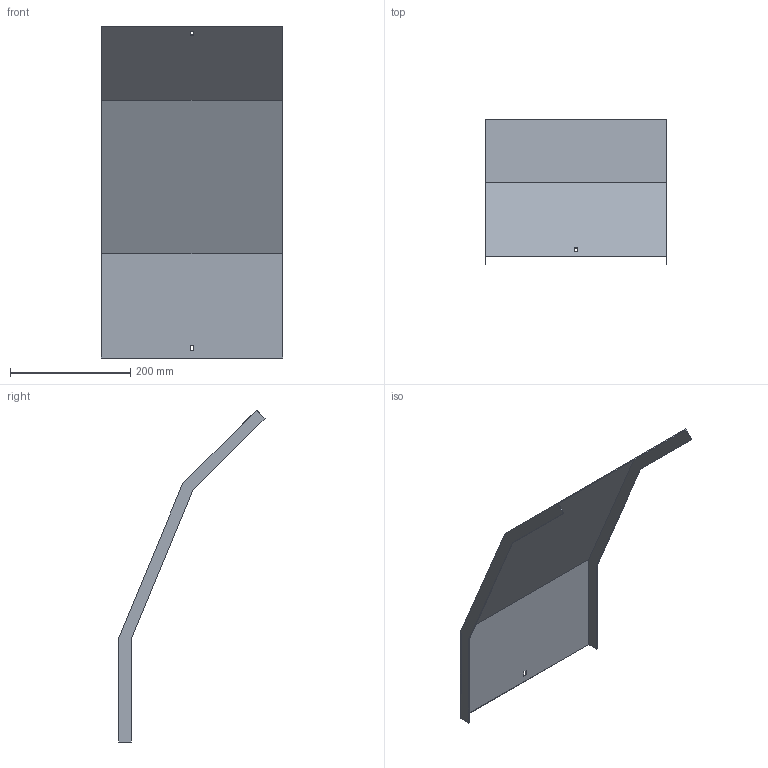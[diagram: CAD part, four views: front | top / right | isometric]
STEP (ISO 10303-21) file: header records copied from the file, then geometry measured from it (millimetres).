
FILE_DESCRIPTION (( 'STEP AP214' ), '1' );
FILE_NAME ('A2_34N3D300.step', '2025-02-21T10:34:48', ( '' ), ( '' ), 'SwSTEP 2.0', 'SolidWorks 2023', '' );
FILE_SCHEMA (( 'AUTOMOTIVE_DESIGN' ));
Length unit declared in the file: millimetre
Products named in the file (1): A2_34N3D300
Bounding box: 303 x 243.15 x 552.87 mm (x, y, z)
Volume: 317784.2 mm3; surface area: 426654.1 mm2
Topology: 1 solids, 1 shells, 26 faces, 72 edges, 48 vertices
Faces by surface type: plane 26
Entity records: 847 total; most frequent: CARTESIAN_POINT 147, ORIENTED_EDGE 144, DIRECTION 126, LINE 72, EDGE_CURVE 72, VECTOR 72, VERTEX_POINT 48, EDGE_LOOP 30
